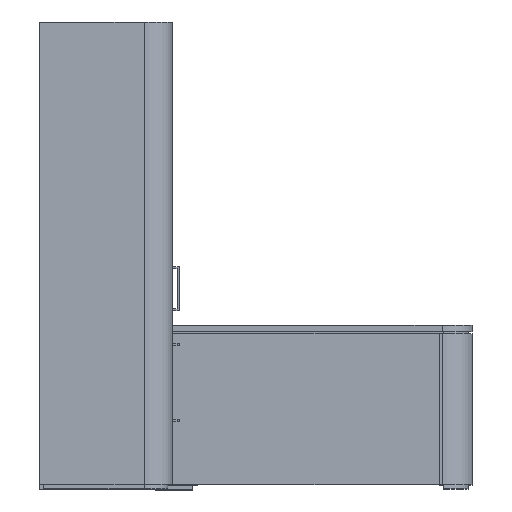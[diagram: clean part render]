
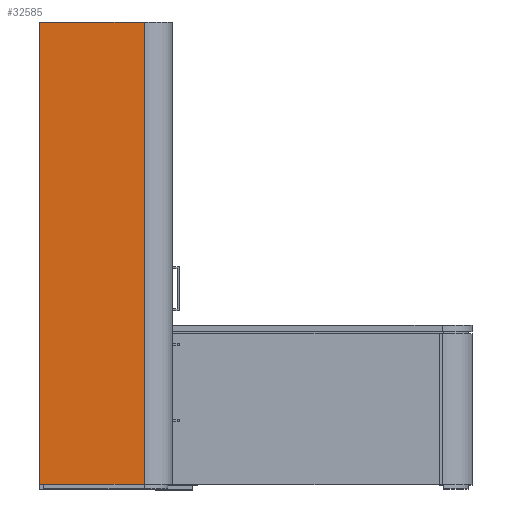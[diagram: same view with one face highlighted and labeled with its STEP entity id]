
A CAD part, top view. The second image highlights one B-rep face of the part: STEP entity #32585.
In plain terms, the highlighted planar face has unit normal (0, 0, 1) as drawn and (-1, 0, 0) by its records, which use the part's own axes.
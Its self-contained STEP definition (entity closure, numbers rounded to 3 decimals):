
#5626=FACE_OUTER_BOUND('',#7397,.T.);
#7397=EDGE_LOOP('',(#23085,#23086,#23087,#23088));
#9430=LINE('',#48685,#12452);
#9436=LINE('',#48697,#12458);
#9439=LINE('',#48703,#12461);
#9440=LINE('',#48704,#12462);
#12452=VECTOR('',#38924,0.394);
#12458=VECTOR('',#38936,0.394);
#12461=VECTOR('',#38941,0.394);
#12462=VECTOR('',#38942,0.394);
#15378=VERTEX_POINT('',#48678);
#15381=VERTEX_POINT('',#48683);
#15384=VERTEX_POINT('',#48696);
#15386=VERTEX_POINT('',#48702);
#18336=EDGE_CURVE('',#15378,#15381,#9430,.T.);
#18342=EDGE_CURVE('',#15384,#15378,#9436,.T.);
#18345=EDGE_CURVE('',#15381,#15386,#9439,.T.);
#18346=EDGE_CURVE('',#15386,#15384,#9440,.T.);
#23085=ORIENTED_EDGE('',*,*,#18336,.T.);
#23086=ORIENTED_EDGE('',*,*,#18345,.T.);
#23087=ORIENTED_EDGE('',*,*,#18346,.T.);
#23088=ORIENTED_EDGE('',*,*,#18342,.T.);
#31469=PLANE('',#35241);
#32585=ADVANCED_FACE('',(#5626),#31469,.T.);
#35241=AXIS2_PLACEMENT_3D('',#48701,#38939,#38940);
#38924=DIRECTION('',(0.,1.,0.));
#38936=DIRECTION('',(0.,0.,1.));
#38939=DIRECTION('center_axis',(-1.,0.,0.));
#38940=DIRECTION('ref_axis',(0.,0.,1.));
#38941=DIRECTION('',(0.,0.,-1.));
#38942=DIRECTION('',(0.,-1.,0.));
#48678=CARTESIAN_POINT('',(-0.75,0.,18.875));
#48683=CARTESIAN_POINT('',(-0.75,83.25,18.875));
#48685=CARTESIAN_POINT('',(-0.75,62.438,18.875));
#48696=CARTESIAN_POINT('',(-0.75,0.,0.));
#48697=CARTESIAN_POINT('',(-0.75,0.,0.));
#48701=CARTESIAN_POINT('Origin',(-0.75,41.625,11.563));
#48702=CARTESIAN_POINT('',(-0.75,83.25,0.));
#48703=CARTESIAN_POINT('',(-0.75,83.25,23.125));
#48704=CARTESIAN_POINT('',(-0.75,83.25,0.));
